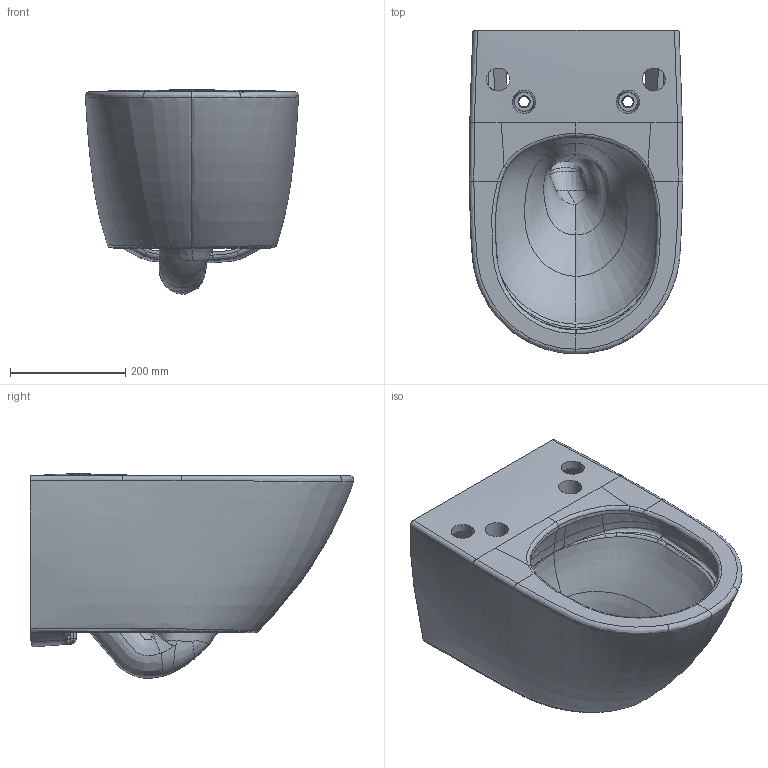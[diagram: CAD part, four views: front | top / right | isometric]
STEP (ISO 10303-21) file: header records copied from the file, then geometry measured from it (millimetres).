
FILE_DESCRIPTION(/* description */ (''),/* implementation_level */ '2;1');
FILE_NAME(/* name */ '4670T5.stp',/* time_stamp */ '2022-01-10T17:12:30+01:00',/* author */ (''),/* organization */ (''),/* preprocessor_version */ 'ST-DEVELOPER v18.1',/* originating_system */ 'SIEMENS PLM Software NX 1973',/* authorisation */ '');
FILE_SCHEMA (('AUTOMOTIVE_DESIGN { 1 0 10303 214 3 1 1 1 }'));
Products named in the file (1): koeb431C7CCCi432
Bounding box: 369.79 x 560.76 x 354.16 mm (x, y, z)
Volume: 10607051.6 mm3; surface area: 1769668.5 mm2
Topology: 1 solids, 1 shells, 1497 faces, 3903 edges, 2278 vertices
Faces by surface type: bspline 1210, plane 95, sphere 70, cylinder 61, extrusion 22, cone 19, torus 13, revolution 7
Full cylindrical faces by diameter (mm): 40 x2
Entity records: 222401 total; most frequent: CARTESIAN_POINT 196776, ORIENTED_EDGE 7444, EDGE_CURVE 3722, B_SPLINE_CURVE_WITH_KNOTS 2842, VERTEX_POINT 2252, DIRECTION 2084, EDGE_LOOP 1540, ADVANCED_FACE 1496
